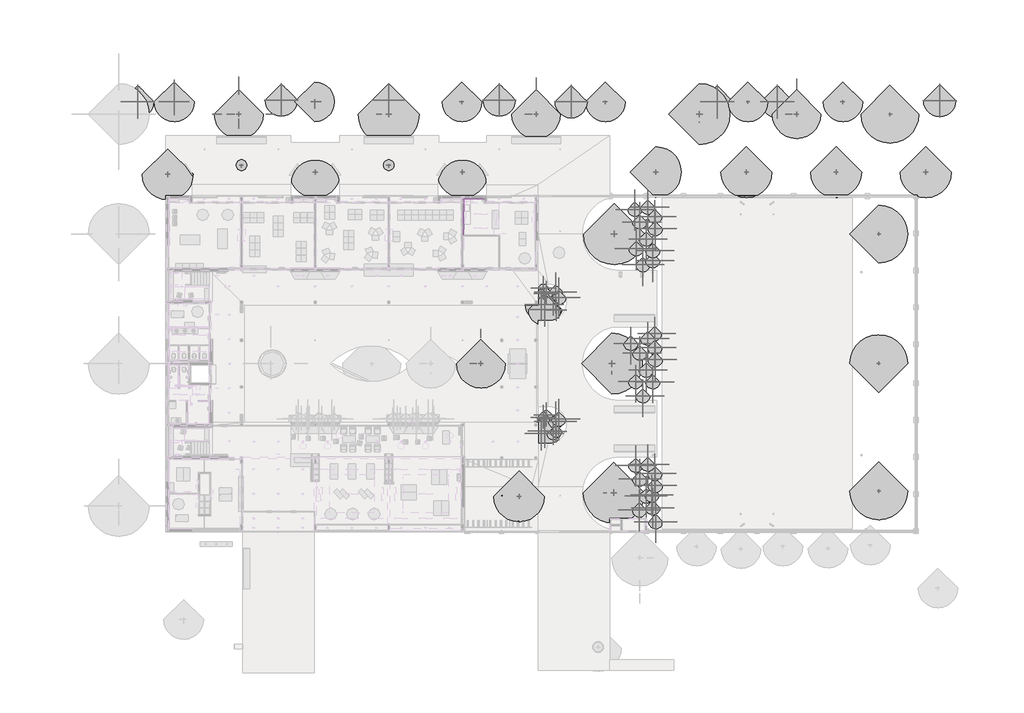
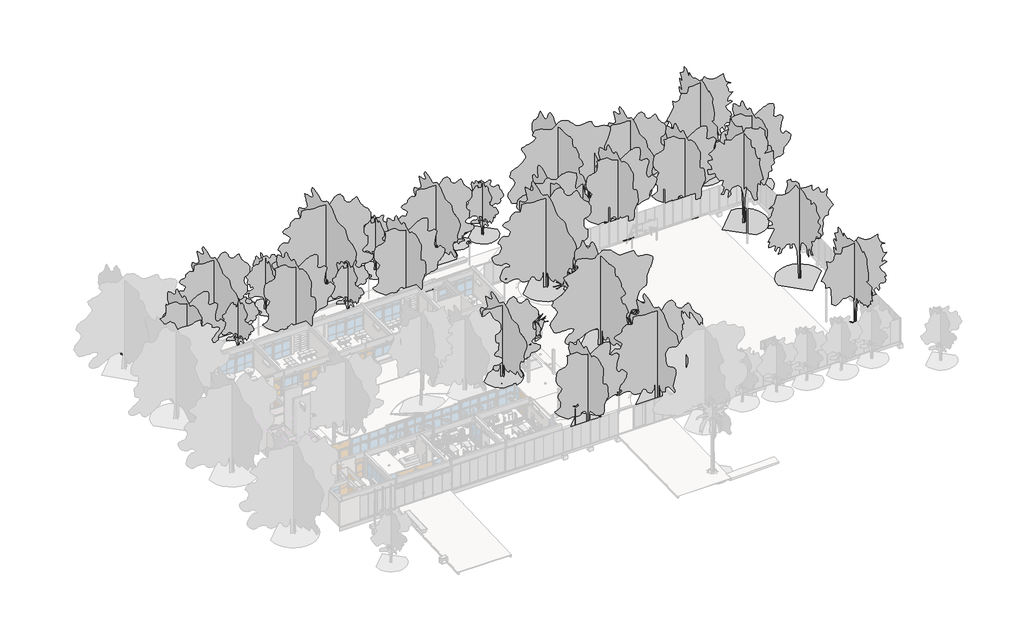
# One storey, part 22 of 22: 83 geographic elements, 1 proxy.
"""IFC4 building model written with IfcOpenShell, lengths in millimetres."""

from ifc_helpers import new_model, si_unit, frame, origin, place, context, project, spatial, polyline, outline, extrude, transform, mapped, element, save
from components import geographic_element_78a4568a, geographic_element_5d79db10, geographic_element_fd73dbfa, geographic_element_c9136397, geographic_element_77ae9e36, geographic_element_643136ad, geographic_element_7a9d7ef0, geographic_element_423ec4e2, geographic_element_e3a35ce8

model = new_model("IFC4")

# Units and contexts
model_context = context("Model", 3, world=origin())
ifc_project = project(units=[si_unit("LENGTHUNIT", "METRE", prefix="MILLI")], contexts=[model_context])

# Site, building, storey
site = spatial("IfcSite", under=ifc_project)
building = spatial("IfcBuilding", under=site)
storey = spatial("IfcBuildingStorey", under=building, Name="PLanta baja", Elevation=0.0)

# Proxy
placement = place(None, origin())
element("IfcBuildingElementProxy", 1, Name="23-BAR-BUÑA PLANCHUELA 20x3.3", ObjectType="23-BAR-BUÑA PLANCHUELA 20x3.3", at=placement, inside=storey, context=model_context, shape_type="SweptSolid", body=[
    extrude(outline(polyline([(30994.2964246, 31409.7304035), (30994.2964246, 31429.7304035), (31613.7173693, 31429.7304035), (31613.7173693, 31409.7304035), (30994.2964246, 31409.7304035)])), frame((0.0, 0.0, 2100.0), z_axis=(0.0, 0.0, 1.0), x_axis=(1.0, 0.0, 0.0)), (0.0, 0.0, 1.0), 3.3),
    extrude(outline(polyline([(30994.2173693, 31419.731002), (31014.2173693, 31419.731002), (31014.2173693, 29050.2304035), (30994.2173693, 29050.2304035), (30994.2173693, 31419.731002)])), frame((0.0, 0.0, 2100.0), z_axis=(0.0, 0.0, 1.0), x_axis=(1.0, 0.0, 0.0)), (0.0, 0.0, 1.0), 3.3),
    extrude(outline(polyline([(30994.2173693, 29050.2304035), (31014.2173693, 29050.2304035), (31014.2173693, 28040.2304035), (30994.2173693, 28040.2304035), (30994.2173693, 29050.2304035)])), frame((0.0, 0.0, 2100.0), z_axis=(0.0, 0.0, 1.0), x_axis=(1.0, 0.0, 0.0)), (0.0, 0.0, 1.0), 3.3),
    extrude(outline(polyline([(31613.7173693, 31409.7304035), (31613.7173693, 31429.7304035), (32878.7173693, 31429.7304035), (32878.7173693, 31409.7304035), (31613.7173693, 31409.7304035)])), frame((0.0, 0.0, 2100.0), z_axis=(0.0, 0.0, 1.0), x_axis=(1.0, 0.0, 0.0)), (0.0, 0.0, 1.0), 3.3),
])

# Geographic elements
geographic_element_shape = geographic_element_78a4568a(model_context)
element("IfcGeographicElement", 2, ObjectType="Vegetacion PAEMFE : TIMBO", at=placement, inside=storey, context=model_context, shape_type="MappedRepresentation", body=[
    mapped(geographic_element_shape, transform((45098.7173693, 28120.7304035, 200.0), x_axis=(1.0, 0.0, 0.0), y_axis=(0.0, 1.0, 0.0), z_axis=(0.0, 0.0, 1.0))),
])
element("IfcGeographicElement", 3, ObjectType="Vegetacion PAEMFE : TIMBO", at=placement, inside=storey, context=model_context, shape_type="MappedRepresentation", body=[
    mapped(geographic_element_shape, transform((44898.7173693, 15970.2304035, 0.0), x_axis=(0.0, 1.0, 0.0), y_axis=(-1.0, 0.0, 0.0), z_axis=(0.0, 0.0, 1.0))),
])
element("IfcGeographicElement", 4, ObjectType="Vegetacion PAEMFE : TIMBO", at=placement, inside=storey, context=model_context, shape_type="MappedRepresentation", body=[
    mapped(geographic_element_shape, transform((45083.7173693, 3857.7304035, 0.0), x_axis=(1.0, 0.0, 0.0), y_axis=(0.0, 1.0, 0.0), z_axis=(0.0, 0.0, 1.0))),
])
element("IfcGeographicElement", 5, ObjectType="Vegetacion PAEMFE : TILO", at=placement, inside=storey, context=model_context, shape_type="MappedRepresentation", body=[
    mapped(geographic_element_shape, transform((23988.7173693, 39370.2304035, -92.7091534), x_axis=(1.0, 0.0, 0.0), y_axis=(0.0, 1.0, 0.0), z_axis=(0.0, 0.0, 1.0))),
])
element("IfcGeographicElement", 6, ObjectType="Vegetacion PAEMFE : TILO", at=placement, inside=storey, context=model_context, shape_type="MappedRepresentation", body=[
    mapped(geographic_element_shape, transform((53088.7173693, 39370.2304035, 79.1133754), x_axis=(0.0, 1.0, 0.0), y_axis=(-1.0, 0.0, 0.0), z_axis=(0.0, 0.0, 1.0))),
])
geographic_element_2_shape = geographic_element_5d79db10(model_context)
element("IfcGeographicElement", 7, ObjectType="Vegetacion PAEMFE : CIRUELO DE JARDIN", at=placement, inside=storey, context=model_context, shape_type="MappedRepresentation", body=[
    mapped(geographic_element_2_shape, transform((3888.7173693, 40520.2304035, -1135.7124179), x_axis=(1.0, 0.0, 0.0), y_axis=(0.0, 1.0, 0.0), z_axis=(0.0, 0.0, 1.0))),
])
element("IfcGeographicElement", 8, ObjectType="Vegetacion PAEMFE : CIRUELO DE JARDIN", at=placement, inside=storey, context=model_context, shape_type="MappedRepresentation", body=[
    mapped(geographic_element_2_shape, transform((17038.7173694, 40520.2304035, -451.7952174), x_axis=(0.0, 1.0, 0.0), y_axis=(-1.0, 0.0, 0.0), z_axis=(0.0, 0.0, 1.0))),
])
element("IfcGeographicElement", 9, ObjectType="Vegetacion PAEMFE : CIRUELO DE JARDIN", at=placement, inside=storey, context=model_context, shape_type="MappedRepresentation", body=[
    mapped(geographic_element_2_shape, transform((30838.7173693, 40520.2304035, -60.3048612), x_axis=(1.0, 0.0, 0.0), y_axis=(0.0, 1.0, 0.0), z_axis=(0.0, 0.0, 1.0))),
])
element("IfcGeographicElement", 10, ObjectType="Vegetacion PAEMFE : CIRUELO DE JARDIN", at=placement, inside=storey, context=model_context, shape_type="MappedRepresentation", body=[
    mapped(geographic_element_2_shape, transform((44288.7173693, 40520.2304035, -86.8261285), x_axis=(1.0, 0.0, 0.0), y_axis=(0.0, 1.0, 0.0), z_axis=(0.0, 0.0, 1.0))),
])
element("IfcGeographicElement", 11, ObjectType="Vegetacion PAEMFE : CIRUELO DE JARDIN", at=placement, inside=storey, context=model_context, shape_type="MappedRepresentation", body=[
    mapped(geographic_element_2_shape, transform((57638.7173693, 40520.2304035, 101.0337351), x_axis=(1.0, 0.0, 0.0), y_axis=(0.0, 1.0, 0.0), z_axis=(0.0, 0.0, 1.0))),
])
element("IfcGeographicElement", 12, ObjectType="Vegetacion PAEMFE : CIRUELO DE JARDIN", at=placement, inside=storey, context=model_context, shape_type="MappedRepresentation", body=[
    mapped(geographic_element_2_shape, transform((66538.7173693, 40520.2304035, -112.4055843), x_axis=(1.0, 0.0, 0.0), y_axis=(0.0, 1.0, 0.0), z_axis=(0.0, 0.0, 1.0))),
])
element("IfcGeographicElement", 13, ObjectType="Vegetacion PAEMFE : CIRUELO DE JARDIN", at=placement, inside=storey, context=model_context, shape_type="MappedRepresentation", body=[
    mapped(geographic_element_2_shape, transform((23988.7173693, 34580.2304035, -55.0), x_axis=(1.0, 0.0, 0.0), y_axis=(0.0, 1.0, 0.0), z_axis=(0.0, 0.0, 1.0))),
])
element("IfcGeographicElement", 14, ObjectType="Vegetacion PAEMFE : CIRUELO DE JARDIN", at=placement, inside=storey, context=model_context, shape_type="MappedRepresentation", body=[
    mapped(geographic_element_2_shape, transform((10188.7173693, 34580.2304035, -55.0), x_axis=(1.0, 0.0, 0.0), y_axis=(0.0, 1.0, 0.0), z_axis=(0.0, 0.0, 1.0))),
])
geographic_element_3_shape = geographic_element_fd73dbfa(model_context)
element("IfcGeographicElement", 15, ObjectType="Vegetacion PAEMFE : IBIRAPITA", at=placement, inside=storey, context=model_context, shape_type="MappedRepresentation", body=[
    mapped(geographic_element_3_shape, transform((70938.7173693, 39370.2304035, -508.3491243), x_axis=(1.0, 0.0, 0.0), y_axis=(0.0, 1.0, 0.0), z_axis=(0.0, 0.0, 1.0))),
])
element("IfcGeographicElement", 16, ObjectType="Vegetacion PAEMFE : IBIRAPITA", at=placement, inside=storey, context=model_context, shape_type="MappedRepresentation", body=[
    mapped(geographic_element_3_shape, transform((69888.7173693, 28119.7304035, 0.0), x_axis=(0.0, 1.0, 0.0), y_axis=(-1.0, 0.0, 0.0), z_axis=(0.0, 0.0, 1.0))),
])
element("IfcGeographicElement", 17, ObjectType="Vegetacion PAEMFE : IBIRAPITA", at=placement, inside=storey, context=model_context, shape_type="MappedRepresentation", body=[
    mapped(geographic_element_3_shape, transform((69888.7173693, 15970.2304035, 0.0), x_axis=(-1.0, 0.0, 0.0), y_axis=(0.0, -1.0, 0.0), z_axis=(0.0, 0.0, 1.0))),
])
element("IfcGeographicElement", 18, ObjectType="Vegetacion PAEMFE : IBIRAPITA", at=placement, inside=storey, context=model_context, shape_type="MappedRepresentation", body=[
    mapped(geographic_element_3_shape, transform((69888.7173693, 4047.3480506, 0.0), x_axis=(1.0, 0.0, 0.0), y_axis=(0.0, 1.0, 0.0), z_axis=(0.0, 0.0, 1.0))),
])
geographic_element_4_shape = geographic_element_c9136397(model_context)
element("IfcGeographicElement", 19, ObjectType="Vegetacion PAEMFE : FRESNO AMERICANO", at=placement, inside=storey, context=model_context, shape_type="MappedRepresentation", body=[
    mapped(geographic_element_4_shape, transform((3278.7173694, 33720.2304035, -8.0462519), x_axis=(1.0, 0.0, 0.0), y_axis=(0.0, 1.0, 0.0), z_axis=(0.0, 0.0, 1.0))),
])
element("IfcGeographicElement", 20, ObjectType="Vegetacion PAEMFE : FRESNO AMERICANO", at=placement, inside=storey, context=model_context, shape_type="MappedRepresentation", body=[
    mapped(geographic_element_4_shape, transform((30888.7173693, 33920.2304035, -55.0), x_axis=(1.0, 0.0, 0.0), y_axis=(0.0, 1.0, 0.0), z_axis=(0.0, 0.0, 1.0))),
])
element("IfcGeographicElement", 21, ObjectType="Vegetacion PAEMFE : FRESNO AMERICANO", at=placement, inside=storey, context=model_context, shape_type="MappedRepresentation", body=[
    mapped(geographic_element_4_shape, transform((17088.7173693, 33920.2304035, -82.9204508), x_axis=(1.0, 0.0, 0.0), y_axis=(0.0, 1.0, 0.0), z_axis=(0.0, 0.0, 1.0))),
])
element("IfcGeographicElement", 22, ObjectType="Vegetacion PAEMFE : FRESNO AMERICANO", at=placement, inside=storey, context=model_context, shape_type="MappedRepresentation", body=[
    mapped(geographic_element_4_shape, transform((74288.7173693, 33920.2304035, -55.0), x_axis=(1.0, 0.0, 0.0), y_axis=(0.0, 1.0, 0.0), z_axis=(0.0, 0.0, 1.0))),
])
element("IfcGeographicElement", 23, ObjectType="Vegetacion PAEMFE : FRESNO AMERICANO", at=placement, inside=storey, context=model_context, shape_type="MappedRepresentation", body=[
    mapped(geographic_element_4_shape, transform((57488.7173693, 33920.2304035, 1.2574961), x_axis=(1.0, 0.0, 0.0), y_axis=(0.0, 1.0, 0.0), z_axis=(0.0, 0.0, 1.0))),
])
element("IfcGeographicElement", 24, ObjectType="Vegetacion PAEMFE : FRESNO AMERICANO", at=placement, inside=storey, context=model_context, shape_type="MappedRepresentation", body=[
    mapped(geographic_element_4_shape, transform((36188.7173694, 3540.2304035, 85.0770897), x_axis=(1.0, 0.0, 0.0), y_axis=(0.0, 1.0, 0.0), z_axis=(0.0, 0.0, 1.0))),
])
element("IfcGeographicElement", 25, ObjectType="Vegetacion PAEMFE : FRESNO AMERICANO", at=placement, inside=storey, context=model_context, shape_type="MappedRepresentation", body=[
    mapped(geographic_element_4_shape, transform((48988.7173693, 33920.2304035, -53.2831677), x_axis=(0.0, 1.0, 0.0), y_axis=(-1.0, 0.0, 0.0), z_axis=(0.0, 0.0, 1.0))),
])
element("IfcGeographicElement", 26, ObjectType="Vegetacion PAEMFE : FRESNO AMERICANO", at=placement, inside=storey, context=model_context, shape_type="MappedRepresentation", body=[
    mapped(geographic_element_4_shape, transform((65888.7173693, 33920.2304035, -88.317393), x_axis=(1.0, 0.0, 0.0), y_axis=(0.0, 1.0, 0.0), z_axis=(0.0, 0.0, 1.0))),
])
geographic_element_5_shape = geographic_element_77ae9e36(model_context)
element("IfcGeographicElement", 27, ObjectType="Vegetacion PAEMFE : JARACANDA", at=placement, inside=storey, context=model_context, shape_type="MappedRepresentation", body=[
    mapped(geographic_element_5_shape, transform((37788.7173693, 39370.2304035, -15.0), x_axis=(1.0, 0.0, 0.0), y_axis=(0.0, 1.0, 0.0), z_axis=(0.0, 0.0, 1.0))),
])
element("IfcGeographicElement", 28, ObjectType="Vegetacion PAEMFE : JARACANDA", at=placement, inside=storey, context=model_context, shape_type="MappedRepresentation", body=[
    mapped(geographic_element_5_shape, transform((62188.7173693, 39370.2304035, 48.5245392), x_axis=(1.0, 0.0, 0.0), y_axis=(0.0, 1.0, 0.0), z_axis=(0.0, 0.0, 1.0))),
])
element("IfcGeographicElement", 29, ObjectType="Vegetacion PAEMFE : JARACANDA", at=placement, inside=storey, context=model_context, shape_type="MappedRepresentation", body=[
    mapped(geographic_element_5_shape, transform((9938.7173693, 39370.2304035, -212.521408), x_axis=(1.0, 0.0, 0.0), y_axis=(0.0, 1.0, 0.0), z_axis=(0.0, 0.0, 1.0))),
])
element("IfcGeographicElement", 30, ObjectType="Vegetacion PAEMFE : JARACANDA", at=placement, inside=storey, context=model_context, shape_type="MappedRepresentation", body=[
    mapped(geographic_element_5_shape, transform((32625.8036247, 15970.2304035, 78.5243143), x_axis=(1.0, 0.0, 0.0), y_axis=(0.0, 1.0, 0.0), z_axis=(0.0, 0.0, 1.0))),
])
geographic_element_6_shape = geographic_element_643136ad(model_context)
element("IfcGeographicElement", 31, ObjectType="Vegetacion PAEMFE : CORONA DE NOVIA", at=placement, inside=storey, context=model_context, shape_type="MappedRepresentation", body=[
    mapped(geographic_element_6_shape, transform((478.7173693, 40520.2304035, -1300.0), x_axis=(1.0, 0.0, 0.0), y_axis=(0.0, 1.0, 0.0), z_axis=(0.0, 0.0, 1.0))),
])
element("IfcGeographicElement", 32, ObjectType="Vegetacion PAEMFE : CORONA DE NOVIA", at=placement, inside=storey, context=model_context, shape_type="MappedRepresentation", body=[
    mapped(geographic_element_6_shape, transform((13914.2553641, 40673.9926758, -837.5911635), x_axis=(1.0, 0.0, 0.0), y_axis=(0.0, 1.0, 0.0), z_axis=(0.0, 0.0, 1.0))),
])
element("IfcGeographicElement", 33, ObjectType="Vegetacion PAEMFE : CORONA DE NOVIA", at=placement, inside=storey, context=model_context, shape_type="MappedRepresentation", body=[
    mapped(geographic_element_6_shape, transform((23988.7173693, 40673.9926758, -516.0190079), x_axis=(1.0, 0.0, 0.0), y_axis=(0.0, 1.0, 0.0), z_axis=(0.0, 0.0, 1.0))),
])
element("IfcGeographicElement", 34, ObjectType="Vegetacion PAEMFE : CORONA DE NOVIA", at=placement, inside=storey, context=model_context, shape_type="MappedRepresentation", body=[
    mapped(geographic_element_6_shape, transform((34338.7173693, 40673.9926758, -163.6542456), x_axis=(1.0, 0.0, 0.0), y_axis=(0.0, 1.0, 0.0), z_axis=(0.0, 0.0, 1.0))),
])
element("IfcGeographicElement", 35, ObjectType="Vegetacion PAEMFE : CORONA DE NOVIA", at=placement, inside=storey, context=model_context, shape_type="MappedRepresentation", body=[
    mapped(geographic_element_6_shape, transform((41064.8739141, 40520.2304035, -28.2961137), x_axis=(1.0, 0.0, 0.0), y_axis=(0.0, 1.0, 0.0), z_axis=(0.0, 0.0, 1.0))),
])
element("IfcGeographicElement", 36, ObjectType="Vegetacion PAEMFE : CORONA DE NOVIA", at=placement, inside=storey, context=model_context, shape_type="MappedRepresentation", body=[
    mapped(geographic_element_6_shape, transform((54748.7173693, 40520.2304035, 0.0), x_axis=(1.0, 0.0, 0.0), y_axis=(0.0, 1.0, 0.0), z_axis=(0.0, 0.0, 1.0))),
])
element("IfcGeographicElement", 37, ObjectType="Vegetacion PAEMFE : CORONA DE NOVIA", at=placement, inside=storey, context=model_context, shape_type="MappedRepresentation", body=[
    mapped(geographic_element_6_shape, transform((38582.0917979, 21026.140222, -52.6489954), x_axis=(1.0, 0.0, 0.0), y_axis=(0.0, 1.0, 0.0), z_axis=(0.0, 0.0, 1.0))),
])
element("IfcGeographicElement", 38, ObjectType="Vegetacion PAEMFE : CORONA DE NOVIA", at=placement, inside=storey, context=model_context, shape_type="MappedRepresentation", body=[
    mapped(geographic_element_6_shape, transform((38582.0917979, 9626.140222, -52.5387882), x_axis=(1.0, 0.0, 0.0), y_axis=(0.0, 1.0, 0.0), z_axis=(0.0, 0.0, 1.0))),
])
element("IfcGeographicElement", 39, ObjectType="Vegetacion PAEMFE : CORONA DE NOVIA", at=placement, inside=storey, context=model_context, shape_type="MappedRepresentation", body=[
    mapped(geographic_element_6_shape, transform((38283.1581463, 9416.8246257, -52.7121736), x_axis=(1.0, 0.0, 0.0), y_axis=(0.0, 1.0, 0.0), z_axis=(0.0, 0.0, 1.0))),
])
element("IfcGeographicElement", 40, ObjectType="Vegetacion PAEMFE : CORONA DE NOVIA", at=placement, inside=storey, context=model_context, shape_type="MappedRepresentation", body=[
    mapped(geographic_element_6_shape, transform((38283.1581463, 21516.8246257, -52.746394), x_axis=(1.0, 0.0, 0.0), y_axis=(0.0, 1.0, 0.0), z_axis=(0.0, 0.0, 1.0))),
])
element("IfcGeographicElement", 41, ObjectType="Vegetacion PAEMFE : CORONA DE NOVIA", at=placement, inside=storey, context=model_context, shape_type="MappedRepresentation", body=[
    mapped(geographic_element_6_shape, transform((60388.7173693, 40520.2304035, -21.4044798), x_axis=(1.0, 0.0, 0.0), y_axis=(0.0, 1.0, 0.0), z_axis=(0.0, 0.0, 1.0))),
])
element("IfcGeographicElement", 42, ObjectType="Vegetacion PAEMFE : CORONA DE NOVIA", at=placement, inside=storey, context=model_context, shape_type="MappedRepresentation", body=[
    mapped(geographic_element_6_shape, transform((75589.5173693, 40620.2304035, 0.0), x_axis=(1.0, 0.0, 0.0), y_axis=(0.0, 1.0, 0.0), z_axis=(0.0, 0.0, 1.0))),
])
geographic_element_7_shape = geographic_element_7a9d7ef0(model_context)
element("IfcGeographicElement", 43, ObjectType="Vegetacion PAEMFE : SANTA RITA 3 COLORES", at=placement, inside=storey, context=model_context, shape_type="MappedRepresentation", body=[
    mapped(geographic_element_7_shape, transform((39672.9756867, 21017.0744375, -52.4492308), x_axis=(1.0, 0.0, 0.0), y_axis=(0.0, 1.0, 0.0), z_axis=(0.0, 0.0, 1.0))),
])
element("IfcGeographicElement", 44, ObjectType="Vegetacion PAEMFE : SANTA RITA 3 COLORES", at=placement, inside=storey, context=model_context, shape_type="MappedRepresentation", body=[
    mapped(geographic_element_7_shape, transform((39672.9756867, 9617.0744375, -51.8891908), x_axis=(1.0, 0.0, 0.0), y_axis=(0.0, 1.0, 0.0), z_axis=(0.0, 0.0, 1.0))),
])
element("IfcGeographicElement", 45, ObjectType="Vegetacion PAEMFE : SANTA RITA 3 COLORES", at=placement, inside=storey, context=model_context, shape_type="MappedRepresentation", body=[
    mapped(geographic_element_7_shape, transform((39374.0420351, 9407.7588413, -52.0794469), x_axis=(1.0, 0.0, 0.0), y_axis=(0.0, 1.0, 0.0), z_axis=(0.0, 0.0, 1.0))),
])
element("IfcGeographicElement", 46, ObjectType="Vegetacion PAEMFE : SANTA RITA 3 COLORES", at=placement, inside=storey, context=model_context, shape_type="MappedRepresentation", body=[
    mapped(geographic_element_7_shape, transform((39374.0420351, 21507.7588413, -52.5466295), x_axis=(1.0, 0.0, 0.0), y_axis=(0.0, 1.0, 0.0), z_axis=(0.0, 0.0, 1.0))),
])
geographic_element_8_shape = geographic_element_423ec4e2(model_context)
element("IfcGeographicElement", 47, ObjectType="Vegetacion PAEMFE : LAVANDA", at=placement, inside=storey, context=model_context, shape_type="MappedRepresentation", body=[
    mapped(geographic_element_8_shape, transform((38758.7660584, 22552.2683166, -52.7501191), x_axis=(1.0, 0.0, 0.0), y_axis=(0.0, 1.0, 0.0), z_axis=(0.0, 0.0, 1.0))),
])
element("IfcGeographicElement", 48, ObjectType="Vegetacion PAEMFE : LAVANDA", at=placement, inside=storey, context=model_context, shape_type="MappedRepresentation", body=[
    mapped(geographic_element_8_shape, transform((38758.7660584, 11152.2683166, -52.4363148), x_axis=(1.0, 0.0, 0.0), y_axis=(0.0, 1.0, 0.0), z_axis=(0.0, 0.0, 1.0))),
])
element("IfcGeographicElement", 49, ObjectType="Vegetacion PAEMFE : LAVANDA", at=placement, inside=storey, context=model_context, shape_type="MappedRepresentation", body=[
    mapped(geographic_element_8_shape, transform((38459.8324068, 10942.9527204, -52.6097002), x_axis=(1.0, 0.0, 0.0), y_axis=(0.0, 1.0, 0.0), z_axis=(0.0, 0.0, 1.0))),
])
element("IfcGeographicElement", 50, ObjectType="Vegetacion PAEMFE : LAVANDA", at=placement, inside=storey, context=model_context, shape_type="MappedRepresentation", body=[
    mapped(geographic_element_8_shape, transform((38459.8324068, 23042.9527204, -52.8475177), x_axis=(1.0, 0.0, 0.0), y_axis=(0.0, 1.0, 0.0), z_axis=(0.0, 0.0, 1.0))),
])
geographic_element_9_shape = geographic_element_e3a35ce8(model_context)
element("IfcGeographicElement", 51, ObjectType="Vegetacion PAEMFE : DIETES BICOLOR", at=placement, inside=storey, context=model_context, shape_type="MappedRepresentation", body=[
    mapped(geographic_element_9_shape, transform((39916.7246531, 22183.2817713, -52.5066717), x_axis=(1.0, 0.0, 0.0), y_axis=(0.0, 1.0, 0.0), z_axis=(0.0, 0.0, 1.0))),
])
element("IfcGeographicElement", 52, ObjectType="Vegetacion PAEMFE : DIETES BICOLOR", at=placement, inside=storey, context=model_context, shape_type="MappedRepresentation", body=[
    mapped(geographic_element_9_shape, transform((39916.7246531, 10783.2817713, -51.6561718), x_axis=(1.0, 0.0, 0.0), y_axis=(0.0, 1.0, 0.0), z_axis=(0.0, 0.0, 1.0))),
])
element("IfcGeographicElement", 53, ObjectType="Vegetacion PAEMFE : DIETES BICOLOR", at=placement, inside=storey, context=model_context, shape_type="MappedRepresentation", body=[
    mapped(geographic_element_9_shape, transform((48253.029806, 30643.9309367, 700.0), x_axis=(1.0, 0.0, 0.0), y_axis=(0.0, 1.0, 0.0), z_axis=(0.0, 0.0, 1.0))),
])
element("IfcGeographicElement", 54, ObjectType="Vegetacion PAEMFE : DIETES BICOLOR", at=placement, inside=storey, context=model_context, shape_type="MappedRepresentation", body=[
    mapped(geographic_element_9_shape, transform((48945.850129, 28643.9309367, 700.0), x_axis=(1.0, 0.0, 0.0), y_axis=(0.0, 1.0, 0.0), z_axis=(0.0, 0.0, 1.0))),
])
element("IfcGeographicElement", 55, ObjectType="Vegetacion PAEMFE : DIETES BICOLOR", at=placement, inside=storey, context=model_context, shape_type="MappedRepresentation", body=[
    mapped(geographic_element_9_shape, transform((48713.8468118, 26573.3955669, 663.3517808), x_axis=(1.0, 0.0, 0.0), y_axis=(0.0, 1.0, 0.0), z_axis=(0.0, 0.0, 1.0))),
])
element("IfcGeographicElement", 56, ObjectType="Vegetacion PAEMFE : DIETES BICOLOR", at=placement, inside=storey, context=model_context, shape_type="MappedRepresentation", body=[
    mapped(geographic_element_9_shape, transform((47796.1245137, 25262.752296, 422.2300851), x_axis=(1.0, 0.0, 0.0), y_axis=(0.0, 1.0, 0.0), z_axis=(0.0, 0.0, 1.0))),
])
element("IfcGeographicElement", 57, ObjectType="Vegetacion PAEMFE : DIETES BICOLOR", at=placement, inside=storey, context=model_context, shape_type="MappedRepresentation", body=[
    mapped(geographic_element_9_shape, transform((48085.7710714, 27665.646933, 579.0622442), x_axis=(1.0, 0.0, 0.0), y_axis=(0.0, 1.0, 0.0), z_axis=(0.0, 0.0, 1.0))),
])
element("IfcGeographicElement", 58, ObjectType="Vegetacion PAEMFE : DIETES BICOLOR", at=placement, inside=storey, context=model_context, shape_type="MappedRepresentation", body=[
    mapped(geographic_element_9_shape, transform((47505.4069497, 29260.1842523, 504.103709), x_axis=(1.0, 0.0, 0.0), y_axis=(0.0, 1.0, 0.0), z_axis=(0.0, 0.0, 1.0))),
])
element("IfcGeographicElement", 59, ObjectType="Vegetacion PAEMFE : DIETES BICOLOR", at=placement, inside=storey, context=model_context, shape_type="MappedRepresentation", body=[
    mapped(geographic_element_9_shape, transform((48914.9458809, 29773.2144673, 700.0), x_axis=(1.0, 0.0, 0.0), y_axis=(0.0, 1.0, 0.0), z_axis=(0.0, 0.0, 1.0))),
])
element("IfcGeographicElement", 60, ObjectType="Vegetacion PAEMFE : DIETES BICOLOR", at=placement, inside=storey, context=model_context, shape_type="MappedRepresentation", body=[
    mapped(geographic_element_9_shape, transform((48253.029806, 18343.9309367, 700.0), x_axis=(1.0, 0.0, 0.0), y_axis=(0.0, 1.0, 0.0), z_axis=(0.0, 0.0, 1.0))),
])
element("IfcGeographicElement", 61, ObjectType="Vegetacion PAEMFE : DIETES BICOLOR", at=placement, inside=storey, context=model_context, shape_type="MappedRepresentation", body=[
    mapped(geographic_element_9_shape, transform((48945.850129, 16343.9309367, 700.0), x_axis=(1.0, 0.0, 0.0), y_axis=(0.0, 1.0, 0.0), z_axis=(0.0, 0.0, 1.0))),
])
element("IfcGeographicElement", 62, ObjectType="Vegetacion PAEMFE : DIETES BICOLOR", at=placement, inside=storey, context=model_context, shape_type="MappedRepresentation", body=[
    mapped(geographic_element_9_shape, transform((48713.8468118, 14273.3955669, 700.0), x_axis=(1.0, 0.0, 0.0), y_axis=(0.0, 1.0, 0.0), z_axis=(0.0, 0.0, 1.0))),
])
element("IfcGeographicElement", 63, ObjectType="Vegetacion PAEMFE : DIETES BICOLOR", at=placement, inside=storey, context=model_context, shape_type="MappedRepresentation", body=[
    mapped(geographic_element_9_shape, transform((47796.1245137, 12962.752296, 700.0), x_axis=(1.0, 0.0, 0.0), y_axis=(0.0, 1.0, 0.0), z_axis=(0.0, 0.0, 1.0))),
])
element("IfcGeographicElement", 64, ObjectType="Vegetacion PAEMFE : DIETES BICOLOR", at=placement, inside=storey, context=model_context, shape_type="MappedRepresentation", body=[
    mapped(geographic_element_9_shape, transform((48085.7710714, 15365.646933, 700.0), x_axis=(1.0, 0.0, 0.0), y_axis=(0.0, 1.0, 0.0), z_axis=(0.0, 0.0, 1.0))),
])
element("IfcGeographicElement", 65, ObjectType="Vegetacion PAEMFE : DIETES BICOLOR", at=placement, inside=storey, context=model_context, shape_type="MappedRepresentation", body=[
    mapped(geographic_element_9_shape, transform((47505.4069497, 16960.1842523, 700.0), x_axis=(1.0, 0.0, 0.0), y_axis=(0.0, 1.0, 0.0), z_axis=(0.0, 0.0, 1.0))),
])
element("IfcGeographicElement", 66, ObjectType="Vegetacion PAEMFE : DIETES BICOLOR", at=placement, inside=storey, context=model_context, shape_type="MappedRepresentation", body=[
    mapped(geographic_element_9_shape, transform((48914.9458809, 17473.2144673, 700.0), x_axis=(1.0, 0.0, 0.0), y_axis=(0.0, 1.0, 0.0), z_axis=(0.0, 0.0, 1.0))),
])
element("IfcGeographicElement", 67, ObjectType="Vegetacion PAEMFE : DIETES BICOLOR", at=placement, inside=storey, context=model_context, shape_type="MappedRepresentation", body=[
    mapped(geographic_element_9_shape, transform((48253.029806, 6543.9309367, 450.8700244), x_axis=(1.0, 0.0, 0.0), y_axis=(0.0, 1.0, 0.0), z_axis=(0.0, 0.0, 1.0))),
])
element("IfcGeographicElement", 68, ObjectType="Vegetacion PAEMFE : DIETES BICOLOR", at=placement, inside=storey, context=model_context, shape_type="MappedRepresentation", body=[
    mapped(geographic_element_9_shape, transform((48945.850129, 4543.9309367, 418.0383444), x_axis=(1.0, 0.0, 0.0), y_axis=(0.0, 1.0, 0.0), z_axis=(0.0, 0.0, 1.0))),
])
element("IfcGeographicElement", 69, ObjectType="Vegetacion PAEMFE : DIETES BICOLOR", at=placement, inside=storey, context=model_context, shape_type="MappedRepresentation", body=[
    mapped(geographic_element_9_shape, transform((48713.8468118, 2473.3955669, 360.6480162), x_axis=(1.0, 0.0, 0.0), y_axis=(0.0, 1.0, 0.0), z_axis=(0.0, 0.0, 1.0))),
])
element("IfcGeographicElement", 70, ObjectType="Vegetacion PAEMFE : DIETES BICOLOR", at=placement, inside=storey, context=model_context, shape_type="MappedRepresentation", body=[
    mapped(geographic_element_9_shape, transform((48996.1245137, 1162.752296, -51.7824485), x_axis=(1.0, 0.0, 0.0), y_axis=(0.0, 1.0, 0.0), z_axis=(0.0, 0.0, 1.0))),
])
element("IfcGeographicElement", 71, ObjectType="Vegetacion PAEMFE : DIETES BICOLOR", at=placement, inside=storey, context=model_context, shape_type="MappedRepresentation", body=[
    mapped(geographic_element_9_shape, transform((48085.7710714, 3565.646933, 370.4228799), x_axis=(1.0, 0.0, 0.0), y_axis=(0.0, 1.0, 0.0), z_axis=(0.0, 0.0, 1.0))),
])
element("IfcGeographicElement", 72, ObjectType="Vegetacion PAEMFE : DIETES BICOLOR", at=placement, inside=storey, context=model_context, shape_type="MappedRepresentation", body=[
    mapped(geographic_element_9_shape, transform((47505.4069497, 5160.1842523, 393.8858332), x_axis=(1.0, 0.0, 0.0), y_axis=(0.0, 1.0, 0.0), z_axis=(0.0, 0.0, 1.0))),
])
element("IfcGeographicElement", 73, ObjectType="Vegetacion PAEMFE : DIETES BICOLOR", at=placement, inside=storey, context=model_context, shape_type="MappedRepresentation", body=[
    mapped(geographic_element_9_shape, transform((48914.9458809, 5673.2144673, 445.0387379), x_axis=(1.0, 0.0, 0.0), y_axis=(0.0, 1.0, 0.0), z_axis=(0.0, 0.0, 1.0))),
])
element("IfcGeographicElement", 74, ObjectType="Vegetacion PAEMFE : DIETES BICOLOR", at=placement, inside=storey, context=model_context, shape_type="MappedRepresentation", body=[
    mapped(geographic_element_9_shape, transform((48709.0384552, 25623.2750154, 606.4366526), x_axis=(1.0, 0.0, 0.0), y_axis=(0.0, 1.0, 0.0), z_axis=(0.0, 0.0, 1.0))),
])
element("IfcGeographicElement", 75, ObjectType="Vegetacion PAEMFE : DIETES BICOLOR", at=placement, inside=storey, context=model_context, shape_type="MappedRepresentation", body=[
    mapped(geographic_element_9_shape, transform((47171.9061659, 26740.0669947, 207.2562733), x_axis=(1.0, 0.0, 0.0), y_axis=(0.0, 1.0, 0.0), z_axis=(0.0, 0.0, 1.0))),
])
element("IfcGeographicElement", 76, ObjectType="Vegetacion PAEMFE : DIETES BICOLOR", at=placement, inside=storey, context=model_context, shape_type="MappedRepresentation", body=[
    mapped(geographic_element_9_shape, transform((47042.7780281, 30437.8130547, 472.4394225), x_axis=(1.0, 0.0, 0.0), y_axis=(0.0, 1.0, 0.0), z_axis=(0.0, 0.0, 1.0))),
])
element("IfcGeographicElement", 77, ObjectType="Vegetacion PAEMFE : DIETES BICOLOR", at=placement, inside=storey, context=model_context, shape_type="MappedRepresentation", body=[
    mapped(geographic_element_9_shape, transform((48888.7047155, 18783.0906357, 700.0), x_axis=(1.0, 0.0, 0.0), y_axis=(0.0, 1.0, 0.0), z_axis=(0.0, 0.0, 1.0))),
])
element("IfcGeographicElement", 78, ObjectType="Vegetacion PAEMFE : DIETES BICOLOR", at=placement, inside=storey, context=model_context, shape_type="MappedRepresentation", body=[
    mapped(geographic_element_9_shape, transform((46663.4634646, 17884.0348115, 700.0), x_axis=(1.0, 0.0, 0.0), y_axis=(0.0, 1.0, 0.0), z_axis=(0.0, 0.0, 1.0))),
])
element("IfcGeographicElement", 79, ObjectType="Vegetacion PAEMFE : DIETES BICOLOR", at=placement, inside=storey, context=model_context, shape_type="MappedRepresentation", body=[
    mapped(geographic_element_9_shape, transform((47102.1931008, 14310.8686655, 700.0), x_axis=(1.0, 0.0, 0.0), y_axis=(0.0, 1.0, 0.0), z_axis=(0.0, 0.0, 1.0))),
])
element("IfcGeographicElement", 80, ObjectType="Vegetacion PAEMFE : DIETES BICOLOR", at=placement, inside=storey, context=model_context, shape_type="MappedRepresentation", body=[
    mapped(geographic_element_9_shape, transform((47102.1931008, 6449.4125112, 428.1305927), x_axis=(1.0, 0.0, 0.0), y_axis=(0.0, 1.0, 0.0), z_axis=(0.0, 0.0, 1.0))),
])
element("IfcGeographicElement", 81, ObjectType="Vegetacion PAEMFE : DIETES BICOLOR", at=placement, inside=storey, context=model_context, shape_type="MappedRepresentation", body=[
    mapped(geographic_element_9_shape, transform((47468.2472204, 2265.3947792, 321.494371), x_axis=(1.0, 0.0, 0.0), y_axis=(0.0, 1.0, 0.0), z_axis=(0.0, 0.0, 1.0))),
])
element("IfcGeographicElement", 82, ObjectType="Vegetacion PAEMFE : DIETES BICOLOR", at=placement, inside=storey, context=model_context, shape_type="MappedRepresentation", body=[
    mapped(geographic_element_9_shape, transform((48645.4304652, 3676.3880542, 388.4411541), x_axis=(1.0, 0.0, 0.0), y_axis=(0.0, 1.0, 0.0), z_axis=(0.0, 0.0, 1.0))),
])
element("IfcGeographicElement", 83, ObjectType="Vegetacion PAEMFE : DIETES BICOLOR", at=placement, inside=storey, context=model_context, shape_type="MappedRepresentation", body=[
    mapped(geographic_element_9_shape, transform((39617.7910015, 10573.9661751, -51.8769835), x_axis=(1.0, 0.0, 0.0), y_axis=(0.0, 1.0, 0.0), z_axis=(0.0, 0.0, 1.0))),
])
element("IfcGeographicElement", 84, ObjectType="Vegetacion PAEMFE : DIETES BICOLOR", at=placement, inside=storey, context=model_context, shape_type="MappedRepresentation", body=[
    mapped(geographic_element_9_shape, transform((39617.7910015, 22673.9661751, -52.6040703), x_axis=(1.0, 0.0, 0.0), y_axis=(0.0, 1.0, 0.0), z_axis=(0.0, 0.0, 1.0))),
])

save(model, "model.ifc")
